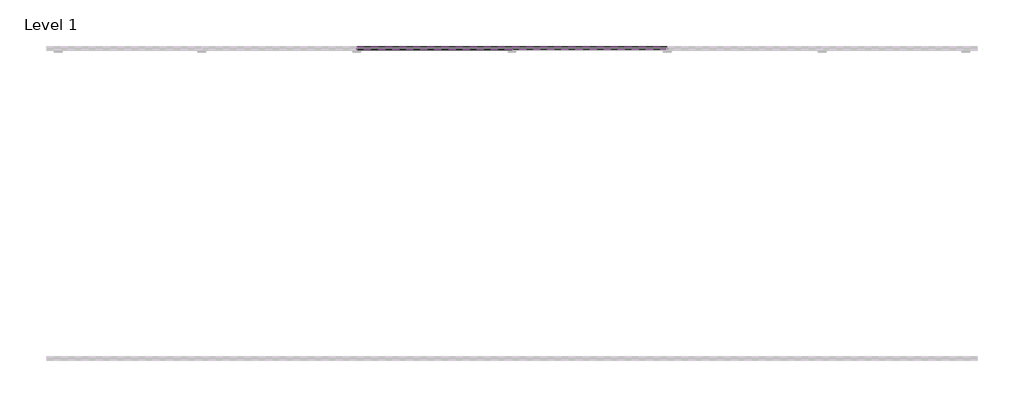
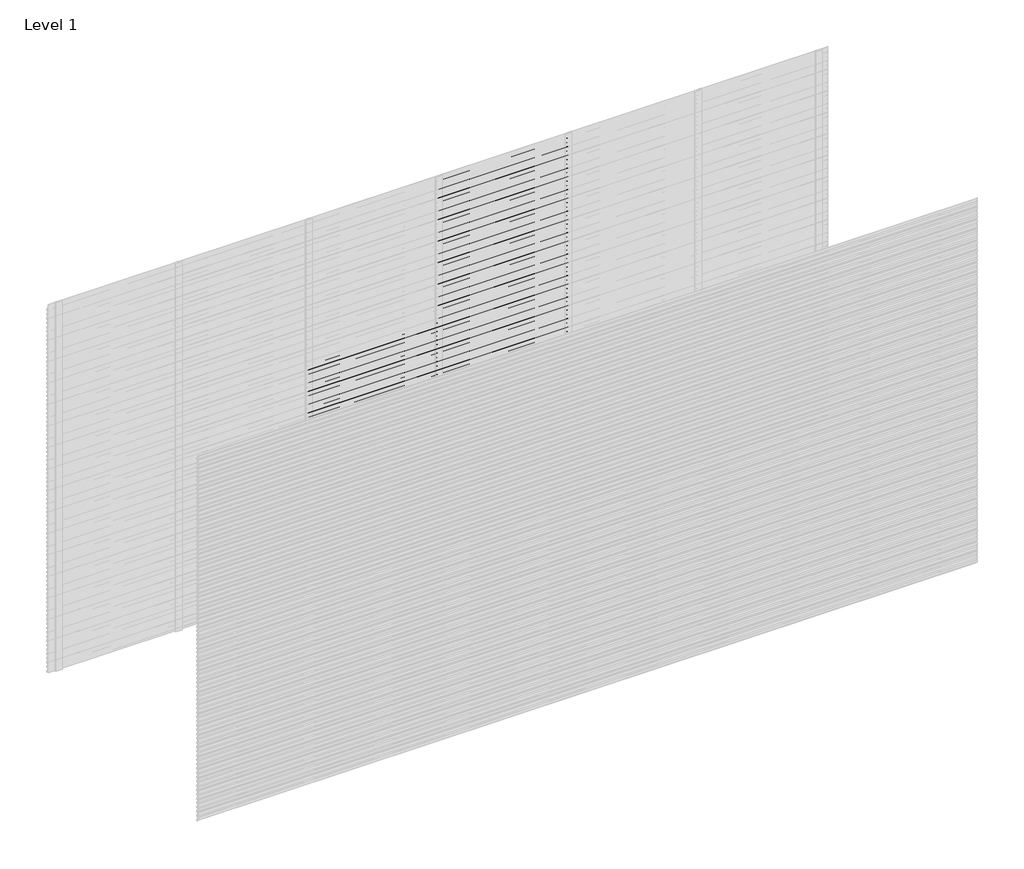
# One storey, part 23 of 25: 103 proxies.
"""IFC4 building model written with IfcOpenShell, lengths in millimetres."""

from ifc_helpers import new_model, si_unit, frame, origin, place, context, project, spatial, polyline, outline, extrude, element, save

model = new_model("IFC4")

# Units and contexts
model_context = context("Model", 3, world=origin())
ifc_project = project(units=[si_unit("LENGTHUNIT", "METRE", prefix="MILLI")], contexts=[model_context])

# Site, building, storey
site = spatial("IfcSite", under=ifc_project)
building = spatial("IfcBuilding", under=site)
storey = spatial("IfcBuildingStorey", under=building, Name="Level 1", Elevation=0.0)

# Proxies
placement = place(None, origin())
element("IfcBuildingElementProxy", 1, Name="Wall Sweeps", at=placement, inside=storey, context=model_context, shape_type="SweptSolid", body=[
    extrude(outline(polyline([(5.0, 1820.0), (5.0, 1808.942893), (24.0, 1793.0), (24.0, 1780.0), (3.0, 1797.6210923), (3.0, 1820.0), (5.0, 1820.0)])), frame((2000.0, 0.0, 0.0), z_axis=(1.0, 0.0, 0.0), x_axis=(0.0, 1.0, 0.0)), (0.0, 0.0, 1.0), 1000.0),
])
element("IfcBuildingElementProxy", 2, Name="Wall Sweeps", at=placement, inside=storey, context=model_context, shape_type="SweptSolid", body=[
    extrude(outline(polyline([(5.0, 1785.0), (5.0, 1773.942893), (24.0, 1758.0), (24.0, 1745.0), (3.0, 1762.6210923), (3.0, 1785.0), (5.0, 1785.0)])), frame((2000.0, 0.0, 0.0), z_axis=(1.0, 0.0, 0.0), x_axis=(0.0, 1.0, 0.0)), (0.0, 0.0, 1.0), 1000.0),
])
element("IfcBuildingElementProxy", 3, Name="Wall Sweeps", at=placement, inside=storey, context=model_context, shape_type="SweptSolid", body=[
    extrude(outline(polyline([(5.0, 1750.0), (5.0, 1738.942893), (24.0, 1723.0), (24.0, 1710.0), (3.0, 1727.6210923), (3.0, 1750.0), (5.0, 1750.0)])), frame((2000.0, 0.0, 0.0), z_axis=(1.0, 0.0, 0.0), x_axis=(0.0, 1.0, 0.0)), (0.0, 0.0, 1.0), 1000.0),
])
element("IfcBuildingElementProxy", 4, Name="Wall Sweeps", at=placement, inside=storey, context=model_context, shape_type="SweptSolid", body=[
    extrude(outline(polyline([(5.0, 1715.0), (5.0, 1703.942893), (24.0, 1688.0), (24.0, 1675.0), (3.0, 1692.6210923), (3.0, 1715.0), (5.0, 1715.0)])), frame((2000.0, 0.0, 0.0), z_axis=(1.0, 0.0, 0.0), x_axis=(0.0, 1.0, 0.0)), (0.0, 0.0, 1.0), 1000.0),
])
element("IfcBuildingElementProxy", 5, Name="Wall Sweeps", at=placement, inside=storey, context=model_context, shape_type="SweptSolid", body=[
    extrude(outline(polyline([(5.0, 1680.0), (5.0, 1668.942893), (24.0, 1653.0), (24.0, 1640.0), (3.0, 1657.6210923), (3.0, 1680.0), (5.0, 1680.0)])), frame((2000.0, 0.0, 0.0), z_axis=(1.0, 0.0, 0.0), x_axis=(0.0, 1.0, 0.0)), (0.0, 0.0, 1.0), 1000.0),
])
element("IfcBuildingElementProxy", 6, Name="Wall Sweeps", at=placement, inside=storey, context=model_context, shape_type="SweptSolid", body=[
    extrude(outline(polyline([(5.0, 1645.0), (5.0, 1633.942893), (24.0, 1618.0), (24.0, 1605.0), (3.0, 1622.6210923), (3.0, 1645.0), (5.0, 1645.0)])), frame((2000.0, 0.0, 0.0), z_axis=(1.0, 0.0, 0.0), x_axis=(0.0, 1.0, 0.0)), (0.0, 0.0, 1.0), 1000.0),
])
element("IfcBuildingElementProxy", 7, Name="Wall Sweeps", at=placement, inside=storey, context=model_context, shape_type="SweptSolid", body=[
    extrude(outline(polyline([(5.0, 1610.0), (5.0, 1598.942893), (24.0, 1583.0), (24.0, 1570.0), (3.0, 1587.6210923), (3.0, 1610.0), (5.0, 1610.0)])), frame((2000.0, 0.0, 0.0), z_axis=(1.0, 0.0, 0.0), x_axis=(0.0, 1.0, 0.0)), (0.0, 0.0, 1.0), 1000.0),
])
element("IfcBuildingElementProxy", 8, Name="Wall Sweeps", at=placement, inside=storey, context=model_context, shape_type="SweptSolid", body=[
    extrude(outline(polyline([(5.0, 1575.0), (5.0, 1563.942893), (24.0, 1548.0), (24.0, 1535.0), (3.0, 1552.6210923), (3.0, 1575.0), (5.0, 1575.0)])), frame((2000.0, 0.0, 0.0), z_axis=(1.0, 0.0, 0.0), x_axis=(0.0, 1.0, 0.0)), (0.0, 0.0, 1.0), 1000.0),
])
element("IfcBuildingElementProxy", 9, Name="Wall Sweeps", at=placement, inside=storey, context=model_context, shape_type="SweptSolid", body=[
    extrude(outline(polyline([(5.0, 1540.0), (5.0, 1528.942893), (24.0, 1513.0), (24.0, 1500.0), (3.0, 1517.6210923), (3.0, 1540.0), (5.0, 1540.0)])), frame((2000.0, 0.0, 0.0), z_axis=(1.0, 0.0, 0.0), x_axis=(0.0, 1.0, 0.0)), (0.0, 0.0, 1.0), 1000.0),
])
element("IfcBuildingElementProxy", 10, Name="Wall Sweeps", at=placement, inside=storey, context=model_context, shape_type="SweptSolid", body=[
    extrude(outline(polyline([(5.0, 1505.0), (5.0, 1493.942893), (24.0, 1478.0), (24.0, 1465.0), (3.0, 1482.6210923), (3.0, 1505.0), (5.0, 1505.0)])), frame((2000.0, 0.0, 0.0), z_axis=(1.0, 0.0, 0.0), x_axis=(0.0, 1.0, 0.0)), (0.0, 0.0, 1.0), 1000.0),
])
element("IfcBuildingElementProxy", 11, Name="Wall Sweeps", at=placement, inside=storey, context=model_context, shape_type="SweptSolid", body=[
    extrude(outline(polyline([(5.0, 1470.0), (5.0, 1458.942893), (24.0, 1443.0), (24.0, 1430.0), (3.0, 1447.6210923), (3.0, 1470.0), (5.0, 1470.0)])), frame((2000.0, 0.0, 0.0), z_axis=(1.0, 0.0, 0.0), x_axis=(0.0, 1.0, 0.0)), (0.0, 0.0, 1.0), 1000.0),
])
element("IfcBuildingElementProxy", 12, Name="Wall Sweeps", at=placement, inside=storey, context=model_context, shape_type="SweptSolid", body=[
    extrude(outline(polyline([(5.0, 1435.0), (5.0, 1423.942893), (24.0, 1408.0), (24.0, 1395.0), (3.0, 1412.6210923), (3.0, 1435.0), (5.0, 1435.0)])), frame((2000.0, 0.0, 0.0), z_axis=(1.0, 0.0, 0.0), x_axis=(0.0, 1.0, 0.0)), (0.0, 0.0, 1.0), 1000.0),
])
element("IfcBuildingElementProxy", 13, Name="Wall Sweeps", at=placement, inside=storey, context=model_context, shape_type="SweptSolid", body=[
    extrude(outline(polyline([(5.0, 1400.0), (5.0, 1388.942893), (24.0, 1373.0), (24.0, 1360.0), (3.0, 1377.6210923), (3.0, 1400.0), (5.0, 1400.0)])), frame((2000.0, 0.0, 0.0), z_axis=(1.0, 0.0, 0.0), x_axis=(0.0, 1.0, 0.0)), (0.0, 0.0, 1.0), 1000.0),
])
element("IfcBuildingElementProxy", 14, Name="Wall Sweeps", at=placement, inside=storey, context=model_context, shape_type="SweptSolid", body=[
    extrude(outline(polyline([(5.0, 1365.0), (5.0, 1353.942893), (24.0, 1338.0), (24.0, 1325.0), (3.0, 1342.6210923), (3.0, 1365.0), (5.0, 1365.0)])), frame((2000.0, 0.0, 0.0), z_axis=(1.0, 0.0, 0.0), x_axis=(0.0, 1.0, 0.0)), (0.0, 0.0, 1.0), 1000.0),
])
element("IfcBuildingElementProxy", 15, Name="Wall Sweeps", at=placement, inside=storey, context=model_context, shape_type="SweptSolid", body=[
    extrude(outline(polyline([(5.0, 1330.0), (5.0, 1318.942893), (24.0, 1303.0), (24.0, 1290.0), (3.0, 1307.6210923), (3.0, 1330.0), (5.0, 1330.0)])), frame((2000.0, 0.0, 0.0), z_axis=(1.0, 0.0, 0.0), x_axis=(0.0, 1.0, 0.0)), (0.0, 0.0, 1.0), 1000.0),
])
element("IfcBuildingElementProxy", 16, Name="Wall Sweeps", at=placement, inside=storey, context=model_context, shape_type="SweptSolid", body=[
    extrude(outline(polyline([(5.0, 1295.0), (5.0, 1283.942893), (24.0, 1268.0), (24.0, 1255.0), (3.0, 1272.6210923), (3.0, 1295.0), (5.0, 1295.0)])), frame((2000.0, 0.0, 0.0), z_axis=(1.0, 0.0, 0.0), x_axis=(0.0, 1.0, 0.0)), (0.0, 0.0, 1.0), 1000.0),
])
element("IfcBuildingElementProxy", 17, Name="Wall Sweeps", at=placement, inside=storey, context=model_context, shape_type="SweptSolid", body=[
    extrude(outline(polyline([(5.0, 1260.0), (5.0, 1248.942893), (24.0, 1233.0), (24.0, 1220.0), (3.0, 1237.6210923), (3.0, 1260.0), (5.0, 1260.0)])), frame((2000.0, 0.0, 0.0), z_axis=(1.0, 0.0, 0.0), x_axis=(0.0, 1.0, 0.0)), (0.0, 0.0, 1.0), 1000.0),
])
element("IfcBuildingElementProxy", 18, Name="Wall Sweeps", at=placement, inside=storey, context=model_context, shape_type="SweptSolid", body=[
    extrude(outline(polyline([(5.0, 1225.0), (5.0, 1213.942893), (24.0, 1198.0), (24.0, 1185.0), (3.0, 1202.6210923), (3.0, 1225.0), (5.0, 1225.0)])), frame((2000.0, 0.0, 0.0), z_axis=(1.0, 0.0, 0.0), x_axis=(0.0, 1.0, 0.0)), (0.0, 0.0, 1.0), 1000.0),
])
element("IfcBuildingElementProxy", 19, Name="Wall Sweeps", at=placement, inside=storey, context=model_context, shape_type="SweptSolid", body=[
    extrude(outline(polyline([(5.0, 1190.0), (5.0, 1178.942893), (24.0, 1163.0), (24.0, 1150.0), (3.0, 1167.6210923), (3.0, 1190.0), (5.0, 1190.0)])), frame((2000.0, 0.0, 0.0), z_axis=(1.0, 0.0, 0.0), x_axis=(0.0, 1.0, 0.0)), (0.0, 0.0, 1.0), 1000.0),
])
element("IfcBuildingElementProxy", 20, Name="Wall Sweeps", at=placement, inside=storey, context=model_context, shape_type="SweptSolid", body=[
    extrude(outline(polyline([(5.0, 1155.0), (5.0, 1143.942893), (24.0, 1128.0), (24.0, 1115.0), (3.0, 1132.6210923), (3.0, 1155.0), (5.0, 1155.0)])), frame((2000.0, 0.0, 0.0), z_axis=(1.0, 0.0, 0.0), x_axis=(0.0, 1.0, 0.0)), (0.0, 0.0, 1.0), 1000.0),
])
element("IfcBuildingElementProxy", 21, Name="Wall Sweeps", at=placement, inside=storey, context=model_context, shape_type="SweptSolid", body=[
    extrude(outline(polyline([(5.0, 1120.0), (5.0, 1108.942893), (24.0, 1093.0), (24.0, 1080.0), (3.0, 1097.6210923), (3.0, 1120.0), (5.0, 1120.0)])), frame((2000.0, 0.0, 0.0), z_axis=(1.0, 0.0, 0.0), x_axis=(0.0, 1.0, 0.0)), (0.0, 0.0, 1.0), 1000.0),
])
element("IfcBuildingElementProxy", 22, Name="Wall Sweeps", at=placement, inside=storey, context=model_context, shape_type="SweptSolid", body=[
    extrude(outline(polyline([(5.0, 1085.0), (5.0, 1073.942893), (24.0, 1058.0), (24.0, 1045.0), (3.0, 1062.6210923), (3.0, 1085.0), (5.0, 1085.0)])), frame((2000.0, 0.0, 0.0), z_axis=(1.0, 0.0, 0.0), x_axis=(0.0, 1.0, 0.0)), (0.0, 0.0, 1.0), 1000.0),
])
element("IfcBuildingElementProxy", 23, Name="Wall Sweeps", at=placement, inside=storey, context=model_context, shape_type="SweptSolid", body=[
    extrude(outline(polyline([(5.0, 1050.0), (5.0, 1038.942893), (24.0, 1023.0), (24.0, 1010.0), (3.0, 1027.6210923), (3.0, 1050.0), (5.0, 1050.0)])), frame((2000.0, 0.0, 0.0), z_axis=(1.0, 0.0, 0.0), x_axis=(0.0, 1.0, 0.0)), (0.0, 0.0, 1.0), 1000.0),
])
element("IfcBuildingElementProxy", 24, Name="Wall Sweeps", at=placement, inside=storey, context=model_context, shape_type="SweptSolid", body=[
    extrude(outline(polyline([(5.0, 1015.0), (5.0, 1003.942893), (24.0, 988.0), (24.0, 975.0), (3.0, 992.6210923), (3.0, 1015.0), (5.0, 1015.0)])), frame((2000.0, 0.0, 0.0), z_axis=(1.0, 0.0, 0.0), x_axis=(0.0, 1.0, 0.0)), (0.0, 0.0, 1.0), 1000.0),
])
element("IfcBuildingElementProxy", 25, Name="Wall Sweeps", at=placement, inside=storey, context=model_context, shape_type="SweptSolid", body=[
    extrude(outline(polyline([(5.0, 980.0), (5.0, 968.942893), (24.0, 953.0), (24.0, 940.0), (3.0, 957.6210923), (3.0, 980.0), (5.0, 980.0)])), frame((2000.0, 0.0, 0.0), z_axis=(1.0, 0.0, 0.0), x_axis=(0.0, 1.0, 0.0)), (0.0, 0.0, 1.0), 1000.0),
])
element("IfcBuildingElementProxy", 26, Name="Wall Sweeps", at=placement, inside=storey, context=model_context, shape_type="SweptSolid", body=[
    extrude(outline(polyline([(5.0, 945.0), (5.0, 933.942893), (24.0, 918.0), (24.0, 905.0), (3.0, 922.6210923), (3.0, 945.0), (5.0, 945.0)])), frame((2000.0, 0.0, 0.0), z_axis=(1.0, 0.0, 0.0), x_axis=(0.0, 1.0, 0.0)), (0.0, 0.0, 1.0), 1000.0),
])
element("IfcBuildingElementProxy", 27, Name="Wall Sweeps", at=placement, inside=storey, context=model_context, shape_type="SweptSolid", body=[
    extrude(outline(polyline([(5.0, 910.0), (5.0, 898.942893), (24.0, 883.0), (24.0, 870.0), (3.0, 887.6210923), (3.0, 910.0), (5.0, 910.0)])), frame((2000.0, 0.0, 0.0), z_axis=(1.0, 0.0, 0.0), x_axis=(0.0, 1.0, 0.0)), (0.0, 0.0, 1.0), 1000.0),
])
element("IfcBuildingElementProxy", 28, Name="Wall Sweeps", at=placement, inside=storey, context=model_context, shape_type="SweptSolid", body=[
    extrude(outline(polyline([(5.0, 875.0), (5.0, 863.942893), (24.0, 848.0), (24.0, 835.0), (3.0, 852.6210923), (3.0, 875.0), (5.0, 875.0)])), frame((2000.0, 0.0, 0.0), z_axis=(1.0, 0.0, 0.0), x_axis=(0.0, 1.0, 0.0)), (0.0, 0.0, 1.0), 1000.0),
])
element("IfcBuildingElementProxy", 29, Name="Wall Sweeps", at=placement, inside=storey, context=model_context, shape_type="SweptSolid", body=[
    extrude(outline(polyline([(5.0, 840.0), (5.0, 828.942893), (24.0, 813.0), (24.0, 800.0), (3.0, 817.6210923), (3.0, 840.0), (5.0, 840.0)])), frame((2000.0, 0.0, 0.0), z_axis=(1.0, 0.0, 0.0), x_axis=(0.0, 1.0, 0.0)), (0.0, 0.0, 1.0), 1000.0),
])
element("IfcBuildingElementProxy", 30, Name="Wall Sweeps", at=placement, inside=storey, context=model_context, shape_type="SweptSolid", body=[
    extrude(outline(polyline([(5.0, 805.0), (5.0, 793.942893), (24.0, 778.0), (24.0, 765.0), (3.0, 782.6210923), (3.0, 805.0), (5.0, 805.0)])), frame((2000.0, 0.0, 0.0), z_axis=(1.0, 0.0, 0.0), x_axis=(0.0, 1.0, 0.0)), (0.0, 0.0, 1.0), 1000.0),
])
element("IfcBuildingElementProxy", 31, Name="Wall Sweeps", at=placement, inside=storey, context=model_context, shape_type="SweptSolid", body=[
    extrude(outline(polyline([(5.0, 770.0), (5.0, 758.942893), (24.0, 743.0), (24.0, 730.0), (3.0, 747.6210923), (3.0, 770.0), (5.0, 770.0)])), frame((2000.0, 0.0, 0.0), z_axis=(1.0, 0.0, 0.0), x_axis=(0.0, 1.0, 0.0)), (0.0, 0.0, 1.0), 1000.0),
])
element("IfcBuildingElementProxy", 32, Name="Wall Sweeps", at=placement, inside=storey, context=model_context, shape_type="SweptSolid", body=[
    extrude(outline(polyline([(5.0, 735.0), (5.0, 723.942893), (24.0, 708.0), (24.0, 695.0), (3.0, 712.6210923), (3.0, 735.0), (5.0, 735.0)])), frame((2000.0, 0.0, 0.0), z_axis=(1.0, 0.0, 0.0), x_axis=(0.0, 1.0, 0.0)), (0.0, 0.0, 1.0), 1000.0),
])
element("IfcBuildingElementProxy", 33, Name="Wall Sweeps", at=placement, inside=storey, context=model_context, shape_type="SweptSolid", body=[
    extrude(outline(polyline([(5.0, 700.0), (5.0, 688.942893), (24.0, 673.0), (24.0, 660.0), (3.0, 677.6210923), (3.0, 700.0), (5.0, 700.0)])), frame((2000.0, 0.0, 0.0), z_axis=(1.0, 0.0, 0.0), x_axis=(0.0, 1.0, 0.0)), (0.0, 0.0, 1.0), 1000.0),
])
element("IfcBuildingElementProxy", 34, Name="Wall Sweeps", at=placement, inside=storey, context=model_context, shape_type="SweptSolid", body=[
    extrude(outline(polyline([(5.0, 665.0), (5.0, 653.942893), (24.0, 638.0), (24.0, 625.0), (3.0, 642.6210923), (3.0, 665.0), (5.0, 665.0)])), frame((2000.0, 0.0, 0.0), z_axis=(1.0, 0.0, 0.0), x_axis=(0.0, 1.0, 0.0)), (0.0, 0.0, 1.0), 1000.0),
])
element("IfcBuildingElementProxy", 35, Name="Wall Sweeps", at=placement, inside=storey, context=model_context, shape_type="SweptSolid", body=[
    extrude(outline(polyline([(5.0, 630.0), (5.0, 618.942893), (24.0, 603.0), (24.0, 590.0), (3.0, 607.6210923), (3.0, 630.0), (5.0, 630.0)])), frame((2000.0, 0.0, 0.0), z_axis=(1.0, 0.0, 0.0), x_axis=(0.0, 1.0, 0.0)), (0.0, 0.0, 1.0), 1000.0),
])
element("IfcBuildingElementProxy", 36, Name="Wall Sweeps", at=placement, inside=storey, context=model_context, shape_type="SweptSolid", body=[
    extrude(outline(polyline([(5.0, 595.0), (5.0, 583.942893), (24.0, 568.0), (24.0, 555.0), (3.0, 572.6210923), (3.0, 595.0), (5.0, 595.0)])), frame((2000.0, 0.0, 0.0), z_axis=(1.0, 0.0, 0.0), x_axis=(0.0, 1.0, 0.0)), (0.0, 0.0, 1.0), 1000.0),
])
element("IfcBuildingElementProxy", 37, Name="Wall Sweeps", at=placement, inside=storey, context=model_context, shape_type="SweptSolid", body=[
    extrude(outline(polyline([(5.0, 560.0), (5.0, 548.942893), (24.0, 533.0), (24.0, 520.0), (3.0, 537.6210923), (3.0, 560.0), (5.0, 560.0)])), frame((2000.0, 0.0, 0.0), z_axis=(1.0, 0.0, 0.0), x_axis=(0.0, 1.0, 0.0)), (0.0, 0.0, 1.0), 1000.0),
])
element("IfcBuildingElementProxy", 38, Name="Wall Sweeps", at=placement, inside=storey, context=model_context, shape_type="SweptSolid", body=[
    extrude(outline(polyline([(5.0, 525.0), (5.0, 513.942893), (24.0, 498.0), (24.0, 485.0), (3.0, 502.6210923), (3.0, 525.0), (5.0, 525.0)])), frame((2000.0, 0.0, 0.0), z_axis=(1.0, 0.0, 0.0), x_axis=(0.0, 1.0, 0.0)), (0.0, 0.0, 1.0), 1000.0),
])
element("IfcBuildingElementProxy", 39, Name="Wall Sweeps", at=placement, inside=storey, context=model_context, shape_type="SweptSolid", body=[
    extrude(outline(polyline([(5.0, 490.0), (5.0, 478.942893), (24.0, 463.0), (24.0, 450.0), (3.0, 467.6210923), (3.0, 490.0), (5.0, 490.0)])), frame((2000.0, 0.0, 0.0), z_axis=(1.0, 0.0, 0.0), x_axis=(0.0, 1.0, 0.0)), (0.0, 0.0, 1.0), 1000.0),
])
element("IfcBuildingElementProxy", 40, Name="Wall Sweeps", at=placement, inside=storey, context=model_context, shape_type="SweptSolid", body=[
    extrude(outline(polyline([(5.0, 455.0), (5.0, 443.942893), (24.0, 428.0), (24.0, 415.0), (3.0, 432.6210923), (3.0, 455.0), (5.0, 455.0)])), frame((2000.0, 0.0, 0.0), z_axis=(1.0, 0.0, 0.0), x_axis=(0.0, 1.0, 0.0)), (0.0, 0.0, 1.0), 1000.0),
])
element("IfcBuildingElementProxy", 41, Name="Wall Sweeps", at=placement, inside=storey, context=model_context, shape_type="SweptSolid", body=[
    extrude(outline(polyline([(5.0, 420.0), (5.0, 408.942893), (24.0, 393.0), (24.0, 380.0), (3.0, 397.6210923), (3.0, 420.0), (5.0, 420.0)])), frame((2000.0, 0.0, 0.0), z_axis=(1.0, 0.0, 0.0), x_axis=(0.0, 1.0, 0.0)), (0.0, 0.0, 1.0), 1000.0),
])
element("IfcBuildingElementProxy", 42, Name="Wall Sweeps", at=placement, inside=storey, context=model_context, shape_type="SweptSolid", body=[
    extrude(outline(polyline([(5.0, 385.0), (5.0, 373.942893), (24.0, 358.0), (24.0, 345.0), (3.0, 362.6210923), (3.0, 385.0), (5.0, 385.0)])), frame((2000.0, 0.0, 0.0), z_axis=(1.0, 0.0, 0.0), x_axis=(0.0, 1.0, 0.0)), (0.0, 0.0, 1.0), 1000.0),
])
element("IfcBuildingElementProxy", 43, Name="Wall Sweeps", at=placement, inside=storey, context=model_context, shape_type="SweptSolid", body=[
    extrude(outline(polyline([(5.0, 350.0), (5.0, 338.942893), (24.0, 323.0), (24.0, 310.0), (3.0, 327.6210923), (3.0, 350.0), (5.0, 350.0)])), frame((2000.0, 0.0, 0.0), z_axis=(1.0, 0.0, 0.0), x_axis=(0.0, 1.0, 0.0)), (0.0, 0.0, 1.0), 1000.0),
])
element("IfcBuildingElementProxy", 44, Name="Wall Sweeps", at=placement, inside=storey, context=model_context, shape_type="SweptSolid", body=[
    extrude(outline(polyline([(5.0, 315.0), (5.0, 303.942893), (24.0, 288.0), (24.0, 275.0), (3.0, 292.6210923), (3.0, 315.0), (5.0, 315.0)])), frame((2000.0, 0.0, 0.0), z_axis=(1.0, 0.0, 0.0), x_axis=(0.0, 1.0, 0.0)), (0.0, 0.0, 1.0), 1000.0),
])
element("IfcBuildingElementProxy", 45, Name="Wall Sweeps", at=placement, inside=storey, context=model_context, shape_type="SweptSolid", body=[
    extrude(outline(polyline([(5.0, 280.0), (5.0, 268.942893), (24.0, 253.0), (24.0, 240.0), (3.0, 257.6210923), (3.0, 280.0), (5.0, 280.0)])), frame((2000.0, 0.0, 0.0), z_axis=(1.0, 0.0, 0.0), x_axis=(0.0, 1.0, 0.0)), (0.0, 0.0, 1.0), 1000.0),
])
element("IfcBuildingElementProxy", 46, Name="Wall Sweeps", at=placement, inside=storey, context=model_context, shape_type="SweptSolid", body=[
    extrude(outline(polyline([(5.0, 245.0), (5.0, 233.942893), (24.0, 218.0), (24.0, 205.0), (3.0, 222.6210923), (3.0, 245.0), (5.0, 245.0)])), frame((2000.0, 0.0, 0.0), z_axis=(1.0, 0.0, 0.0), x_axis=(0.0, 1.0, 0.0)), (0.0, 0.0, 1.0), 1000.0),
])
element("IfcBuildingElementProxy", 47, Name="Wall Sweeps", at=placement, inside=storey, context=model_context, shape_type="SweptSolid", body=[
    extrude(outline(polyline([(5.0, 210.0), (5.0, 198.942893), (24.0, 183.0), (24.0, 170.0), (3.0, 187.6210923), (3.0, 210.0), (5.0, 210.0)])), frame((2000.0, 0.0, 0.0), z_axis=(1.0, 0.0, 0.0), x_axis=(0.0, 1.0, 0.0)), (0.0, 0.0, 1.0), 1000.0),
])
element("IfcBuildingElementProxy", 48, Name="Wall Sweeps", at=placement, inside=storey, context=model_context, shape_type="SweptSolid", body=[
    extrude(outline(polyline([(5.0, 175.0), (5.0, 163.942893), (24.0, 148.0), (24.0, 135.0), (3.0, 152.6210923), (3.0, 175.0), (5.0, 175.0)])), frame((2000.0, 0.0, 0.0), z_axis=(1.0, 0.0, 0.0), x_axis=(0.0, 1.0, 0.0)), (0.0, 0.0, 1.0), 1000.0),
])
element("IfcBuildingElementProxy", 49, Name="Wall Sweeps", at=placement, inside=storey, context=model_context, shape_type="SweptSolid", body=[
    extrude(outline(polyline([(5.0, 140.0), (5.0, 128.942893), (24.0, 113.0), (24.0, 100.0), (3.0, 117.6210923), (3.0, 140.0), (5.0, 140.0)])), frame((2000.0, 0.0, 0.0), z_axis=(1.0, 0.0, 0.0), x_axis=(0.0, 1.0, 0.0)), (0.0, 0.0, 1.0), 1000.0),
])
element("IfcBuildingElementProxy", 50, Name="Wall Sweeps", at=placement, inside=storey, context=model_context, shape_type="SweptSolid", body=[
    extrude(outline(polyline([(5.0, 105.0), (5.0, 93.942893), (24.0, 78.0), (24.0, 65.0), (3.0, 82.6210923), (3.0, 105.0), (5.0, 105.0)])), frame((2000.0, 0.0, 0.0), z_axis=(1.0, 0.0, 0.0), x_axis=(0.0, 1.0, 0.0)), (0.0, 0.0, 1.0), 1000.0),
])
element("IfcBuildingElementProxy", 51, Name="Wall Sweeps", at=placement, inside=storey, context=model_context, shape_type="SweptSolid", body=[
    extrude(outline(polyline([(5.0, 70.0), (5.0, 58.942893), (24.0, 43.0), (24.0, 30.0), (3.0, 47.6210923), (3.0, 70.0), (5.0, 70.0)])), frame((2000.0, 0.0, 0.0), z_axis=(1.0, 0.0, 0.0), x_axis=(0.0, 1.0, 0.0)), (0.0, 0.0, 1.0), 1000.0),
])
element("IfcBuildingElementProxy", 52, Name="Wall Sweeps", at=placement, inside=storey, context=model_context, shape_type="SweptSolid", body=[
    extrude(outline(polyline([(5.0, 35.0), (5.0, 23.942893), (24.0, 8.0), (24.0, -5.0), (3.0, 12.6210923), (3.0, 35.0), (5.0, 35.0)])), frame((2000.0, 0.0, 0.0), z_axis=(1.0, 0.0, 0.0), x_axis=(0.0, 1.0, 0.0)), (0.0, 0.0, 1.0), 1000.0),
])
element("IfcBuildingElementProxy", 53, Name="Wall Sweeps", at=placement, inside=storey, context=model_context, shape_type="SweptSolid", body=[
    extrude(outline(polyline([(5.0, 2975.0), (5.0, 2963.942893), (24.0, 2948.0), (24.0, 2935.0), (3.0, 2952.6210923), (3.0, 2975.0), (5.0, 2975.0)])), frame((3000.0, 0.0, 0.0), z_axis=(1.0, 0.0, 0.0), x_axis=(0.0, 1.0, 0.0)), (0.0, 0.0, 1.0), 1000.0),
])
element("IfcBuildingElementProxy", 54, Name="Wall Sweeps", at=placement, inside=storey, context=model_context, shape_type="SweptSolid", body=[
    extrude(outline(polyline([(5.0, 2940.0), (5.0, 2928.942893), (24.0, 2913.0), (24.0, 2900.0), (3.0, 2917.6210923), (3.0, 2940.0), (5.0, 2940.0)])), frame((3000.0, 0.0, 0.0), z_axis=(1.0, 0.0, 0.0), x_axis=(0.0, 1.0, 0.0)), (0.0, 0.0, 1.0), 1000.0),
])
element("IfcBuildingElementProxy", 55, Name="Wall Sweeps", at=placement, inside=storey, context=model_context, shape_type="SweptSolid", body=[
    extrude(outline(polyline([(5.0, 2905.0), (5.0, 2893.942893), (24.0, 2878.0), (24.0, 2865.0), (3.0, 2882.6210923), (3.0, 2905.0), (5.0, 2905.0)])), frame((3000.0, 0.0, 0.0), z_axis=(1.0, 0.0, 0.0), x_axis=(0.0, 1.0, 0.0)), (0.0, 0.0, 1.0), 1000.0),
])
element("IfcBuildingElementProxy", 56, Name="Wall Sweeps", at=placement, inside=storey, context=model_context, shape_type="SweptSolid", body=[
    extrude(outline(polyline([(5.0, 2870.0), (5.0, 2858.942893), (24.0, 2843.0), (24.0, 2830.0), (3.0, 2847.6210923), (3.0, 2870.0), (5.0, 2870.0)])), frame((3000.0, 0.0, 0.0), z_axis=(1.0, 0.0, 0.0), x_axis=(0.0, 1.0, 0.0)), (0.0, 0.0, 1.0), 1000.0),
])
element("IfcBuildingElementProxy", 57, Name="Wall Sweeps", at=placement, inside=storey, context=model_context, shape_type="SweptSolid", body=[
    extrude(outline(polyline([(5.0, 2835.0), (5.0, 2823.942893), (24.0, 2808.0), (24.0, 2795.0), (3.0, 2812.6210923), (3.0, 2835.0), (5.0, 2835.0)])), frame((3000.0, 0.0, 0.0), z_axis=(1.0, 0.0, 0.0), x_axis=(0.0, 1.0, 0.0)), (0.0, 0.0, 1.0), 1000.0),
])
element("IfcBuildingElementProxy", 58, Name="Wall Sweeps", at=placement, inside=storey, context=model_context, shape_type="SweptSolid", body=[
    extrude(outline(polyline([(5.0, 2800.0), (5.0, 2788.942893), (24.0, 2773.0), (24.0, 2760.0), (3.0, 2777.6210923), (3.0, 2800.0), (5.0, 2800.0)])), frame((3000.0, 0.0, 0.0), z_axis=(1.0, 0.0, 0.0), x_axis=(0.0, 1.0, 0.0)), (0.0, 0.0, 1.0), 1000.0),
])
element("IfcBuildingElementProxy", 59, Name="Wall Sweeps", at=placement, inside=storey, context=model_context, shape_type="SweptSolid", body=[
    extrude(outline(polyline([(5.0, 2765.0), (5.0, 2753.942893), (24.0, 2738.0), (24.0, 2725.0), (3.0, 2742.6210923), (3.0, 2765.0), (5.0, 2765.0)])), frame((3000.0, 0.0, 0.0), z_axis=(1.0, 0.0, 0.0), x_axis=(0.0, 1.0, 0.0)), (0.0, 0.0, 1.0), 1000.0),
])
element("IfcBuildingElementProxy", 60, Name="Wall Sweeps", at=placement, inside=storey, context=model_context, shape_type="SweptSolid", body=[
    extrude(outline(polyline([(5.0, 2730.0), (5.0, 2718.942893), (24.0, 2703.0), (24.0, 2690.0), (3.0, 2707.6210923), (3.0, 2730.0), (5.0, 2730.0)])), frame((3000.0, 0.0, 0.0), z_axis=(1.0, 0.0, 0.0), x_axis=(0.0, 1.0, 0.0)), (0.0, 0.0, 1.0), 1000.0),
])
element("IfcBuildingElementProxy", 61, Name="Wall Sweeps", at=placement, inside=storey, context=model_context, shape_type="SweptSolid", body=[
    extrude(outline(polyline([(5.0, 2695.0), (5.0, 2683.942893), (24.0, 2668.0), (24.0, 2655.0), (3.0, 2672.6210923), (3.0, 2695.0), (5.0, 2695.0)])), frame((3000.0, 0.0, 0.0), z_axis=(1.0, 0.0, 0.0), x_axis=(0.0, 1.0, 0.0)), (0.0, 0.0, 1.0), 1000.0),
])
element("IfcBuildingElementProxy", 62, Name="Wall Sweeps", at=placement, inside=storey, context=model_context, shape_type="SweptSolid", body=[
    extrude(outline(polyline([(5.0, 2660.0), (5.0, 2648.942893), (24.0, 2633.0), (24.0, 2620.0), (3.0, 2637.6210923), (3.0, 2660.0), (5.0, 2660.0)])), frame((3000.0, 0.0, 0.0), z_axis=(1.0, 0.0, 0.0), x_axis=(0.0, 1.0, 0.0)), (0.0, 0.0, 1.0), 1000.0),
])
element("IfcBuildingElementProxy", 63, Name="Wall Sweeps", at=placement, inside=storey, context=model_context, shape_type="SweptSolid", body=[
    extrude(outline(polyline([(5.0, 2625.0), (5.0, 2613.942893), (24.0, 2598.0), (24.0, 2585.0), (3.0, 2602.6210923), (3.0, 2625.0), (5.0, 2625.0)])), frame((3000.0, 0.0, 0.0), z_axis=(1.0, 0.0, 0.0), x_axis=(0.0, 1.0, 0.0)), (0.0, 0.0, 1.0), 1000.0),
])
element("IfcBuildingElementProxy", 64, Name="Wall Sweeps", at=placement, inside=storey, context=model_context, shape_type="SweptSolid", body=[
    extrude(outline(polyline([(5.0, 2590.0), (5.0, 2578.942893), (24.0, 2563.0), (24.0, 2550.0), (3.0, 2567.6210923), (3.0, 2590.0), (5.0, 2590.0)])), frame((3000.0, 0.0, 0.0), z_axis=(1.0, 0.0, 0.0), x_axis=(0.0, 1.0, 0.0)), (0.0, 0.0, 1.0), 1000.0),
])
element("IfcBuildingElementProxy", 65, Name="Wall Sweeps", at=placement, inside=storey, context=model_context, shape_type="SweptSolid", body=[
    extrude(outline(polyline([(5.0, 2555.0), (5.0, 2543.942893), (24.0, 2528.0), (24.0, 2515.0), (3.0, 2532.6210923), (3.0, 2555.0), (5.0, 2555.0)])), frame((3000.0, 0.0, 0.0), z_axis=(1.0, 0.0, 0.0), x_axis=(0.0, 1.0, 0.0)), (0.0, 0.0, 1.0), 1000.0),
])
element("IfcBuildingElementProxy", 66, Name="Wall Sweeps", at=placement, inside=storey, context=model_context, shape_type="SweptSolid", body=[
    extrude(outline(polyline([(5.0, 2520.0), (5.0, 2508.942893), (24.0, 2493.0), (24.0, 2480.0), (3.0, 2497.6210923), (3.0, 2520.0), (5.0, 2520.0)])), frame((3000.0, 0.0, 0.0), z_axis=(1.0, 0.0, 0.0), x_axis=(0.0, 1.0, 0.0)), (0.0, 0.0, 1.0), 1000.0),
])
element("IfcBuildingElementProxy", 67, Name="Wall Sweeps", at=placement, inside=storey, context=model_context, shape_type="SweptSolid", body=[
    extrude(outline(polyline([(5.0, 2485.0), (5.0, 2473.942893), (24.0, 2458.0), (24.0, 2445.0), (3.0, 2462.6210923), (3.0, 2485.0), (5.0, 2485.0)])), frame((3000.0, 0.0, 0.0), z_axis=(1.0, 0.0, 0.0), x_axis=(0.0, 1.0, 0.0)), (0.0, 0.0, 1.0), 1000.0),
])
element("IfcBuildingElementProxy", 68, Name="Wall Sweeps", at=placement, inside=storey, context=model_context, shape_type="SweptSolid", body=[
    extrude(outline(polyline([(5.0, 2450.0), (5.0, 2438.942893), (24.0, 2423.0), (24.0, 2410.0), (3.0, 2427.6210923), (3.0, 2450.0), (5.0, 2450.0)])), frame((3000.0, 0.0, 0.0), z_axis=(1.0, 0.0, 0.0), x_axis=(0.0, 1.0, 0.0)), (0.0, 0.0, 1.0), 1000.0),
])
element("IfcBuildingElementProxy", 69, Name="Wall Sweeps", at=placement, inside=storey, context=model_context, shape_type="SweptSolid", body=[
    extrude(outline(polyline([(5.0, 2415.0), (5.0, 2403.942893), (24.0, 2388.0), (24.0, 2375.0), (3.0, 2392.6210923), (3.0, 2415.0), (5.0, 2415.0)])), frame((3000.0, 0.0, 0.0), z_axis=(1.0, 0.0, 0.0), x_axis=(0.0, 1.0, 0.0)), (0.0, 0.0, 1.0), 1000.0),
])
element("IfcBuildingElementProxy", 70, Name="Wall Sweeps", at=placement, inside=storey, context=model_context, shape_type="SweptSolid", body=[
    extrude(outline(polyline([(5.0, 2380.0), (5.0, 2368.942893), (24.0, 2353.0), (24.0, 2340.0), (3.0, 2357.6210923), (3.0, 2380.0), (5.0, 2380.0)])), frame((3000.0, 0.0, 0.0), z_axis=(1.0, 0.0, 0.0), x_axis=(0.0, 1.0, 0.0)), (0.0, 0.0, 1.0), 1000.0),
])
element("IfcBuildingElementProxy", 71, Name="Wall Sweeps", at=placement, inside=storey, context=model_context, shape_type="SweptSolid", body=[
    extrude(outline(polyline([(5.0, 2345.0), (5.0, 2333.942893), (24.0, 2318.0), (24.0, 2305.0), (3.0, 2322.6210923), (3.0, 2345.0), (5.0, 2345.0)])), frame((3000.0, 0.0, 0.0), z_axis=(1.0, 0.0, 0.0), x_axis=(0.0, 1.0, 0.0)), (0.0, 0.0, 1.0), 1000.0),
])
element("IfcBuildingElementProxy", 72, Name="Wall Sweeps", at=placement, inside=storey, context=model_context, shape_type="SweptSolid", body=[
    extrude(outline(polyline([(5.0, 2310.0), (5.0, 2298.942893), (24.0, 2283.0), (24.0, 2270.0), (3.0, 2287.6210923), (3.0, 2310.0), (5.0, 2310.0)])), frame((3000.0, 0.0, 0.0), z_axis=(1.0, 0.0, 0.0), x_axis=(0.0, 1.0, 0.0)), (0.0, 0.0, 1.0), 1000.0),
])
element("IfcBuildingElementProxy", 73, Name="Wall Sweeps", at=placement, inside=storey, context=model_context, shape_type="SweptSolid", body=[
    extrude(outline(polyline([(5.0, 2275.0), (5.0, 2263.942893), (24.0, 2248.0), (24.0, 2235.0), (3.0, 2252.6210923), (3.0, 2275.0), (5.0, 2275.0)])), frame((3000.0, 0.0, 0.0), z_axis=(1.0, 0.0, 0.0), x_axis=(0.0, 1.0, 0.0)), (0.0, 0.0, 1.0), 1000.0),
])
element("IfcBuildingElementProxy", 74, Name="Wall Sweeps", at=placement, inside=storey, context=model_context, shape_type="SweptSolid", body=[
    extrude(outline(polyline([(5.0, 2240.0), (5.0, 2228.942893), (24.0, 2213.0), (24.0, 2200.0), (3.0, 2217.6210923), (3.0, 2240.0), (5.0, 2240.0)])), frame((3000.0, 0.0, 0.0), z_axis=(1.0, 0.0, 0.0), x_axis=(0.0, 1.0, 0.0)), (0.0, 0.0, 1.0), 1000.0),
])
element("IfcBuildingElementProxy", 75, Name="Wall Sweeps", at=placement, inside=storey, context=model_context, shape_type="SweptSolid", body=[
    extrude(outline(polyline([(5.0, 2205.0), (5.0, 2193.942893), (24.0, 2178.0), (24.0, 2165.0), (3.0, 2182.6210923), (3.0, 2205.0), (5.0, 2205.0)])), frame((3000.0, 0.0, 0.0), z_axis=(1.0, 0.0, 0.0), x_axis=(0.0, 1.0, 0.0)), (0.0, 0.0, 1.0), 1000.0),
])
element("IfcBuildingElementProxy", 76, Name="Wall Sweeps", at=placement, inside=storey, context=model_context, shape_type="SweptSolid", body=[
    extrude(outline(polyline([(5.0, 2170.0), (5.0, 2158.942893), (24.0, 2143.0), (24.0, 2130.0), (3.0, 2147.6210923), (3.0, 2170.0), (5.0, 2170.0)])), frame((3000.0, 0.0, 0.0), z_axis=(1.0, 0.0, 0.0), x_axis=(0.0, 1.0, 0.0)), (0.0, 0.0, 1.0), 1000.0),
])
element("IfcBuildingElementProxy", 77, Name="Wall Sweeps", at=placement, inside=storey, context=model_context, shape_type="SweptSolid", body=[
    extrude(outline(polyline([(5.0, 2135.0), (5.0, 2123.942893), (24.0, 2108.0), (24.0, 2095.0), (3.0, 2112.6210923), (3.0, 2135.0), (5.0, 2135.0)])), frame((3000.0, 0.0, 0.0), z_axis=(1.0, 0.0, 0.0), x_axis=(0.0, 1.0, 0.0)), (0.0, 0.0, 1.0), 1000.0),
])
element("IfcBuildingElementProxy", 78, Name="Wall Sweeps", at=placement, inside=storey, context=model_context, shape_type="SweptSolid", body=[
    extrude(outline(polyline([(5.0, 2100.0), (5.0, 2088.942893), (24.0, 2073.0), (24.0, 2060.0), (3.0, 2077.6210923), (3.0, 2100.0), (5.0, 2100.0)])), frame((3000.0, 0.0, 0.0), z_axis=(1.0, 0.0, 0.0), x_axis=(0.0, 1.0, 0.0)), (0.0, 0.0, 1.0), 1000.0),
])
element("IfcBuildingElementProxy", 79, Name="Wall Sweeps", at=placement, inside=storey, context=model_context, shape_type="SweptSolid", body=[
    extrude(outline(polyline([(5.0, 2065.0), (5.0, 2053.942893), (24.0, 2038.0), (24.0, 2025.0), (3.0, 2042.6210923), (3.0, 2065.0), (5.0, 2065.0)])), frame((3000.0, 0.0, 0.0), z_axis=(1.0, 0.0, 0.0), x_axis=(0.0, 1.0, 0.0)), (0.0, 0.0, 1.0), 1000.0),
])
element("IfcBuildingElementProxy", 80, Name="Wall Sweeps", at=placement, inside=storey, context=model_context, shape_type="SweptSolid", body=[
    extrude(outline(polyline([(5.0, 2030.0), (5.0, 2018.942893), (24.0, 2003.0), (24.0, 1990.0), (3.0, 2007.6210923), (3.0, 2030.0), (5.0, 2030.0)])), frame((3000.0, 0.0, 0.0), z_axis=(1.0, 0.0, 0.0), x_axis=(0.0, 1.0, 0.0)), (0.0, 0.0, 1.0), 1000.0),
])
element("IfcBuildingElementProxy", 81, Name="Wall Sweeps", at=placement, inside=storey, context=model_context, shape_type="SweptSolid", body=[
    extrude(outline(polyline([(5.0, 1995.0), (5.0, 1983.942893), (24.0, 1968.0), (24.0, 1955.0), (3.0, 1972.6210923), (3.0, 1995.0), (5.0, 1995.0)])), frame((3000.0, 0.0, 0.0), z_axis=(1.0, 0.0, 0.0), x_axis=(0.0, 1.0, 0.0)), (0.0, 0.0, 1.0), 1000.0),
])
element("IfcBuildingElementProxy", 82, Name="Wall Sweeps", at=placement, inside=storey, context=model_context, shape_type="SweptSolid", body=[
    extrude(outline(polyline([(5.0, 1960.0), (5.0, 1948.942893), (24.0, 1933.0), (24.0, 1920.0), (3.0, 1937.6210923), (3.0, 1960.0), (5.0, 1960.0)])), frame((3000.0, 0.0, 0.0), z_axis=(1.0, 0.0, 0.0), x_axis=(0.0, 1.0, 0.0)), (0.0, 0.0, 1.0), 1000.0),
])
element("IfcBuildingElementProxy", 83, Name="Wall Sweeps", at=placement, inside=storey, context=model_context, shape_type="SweptSolid", body=[
    extrude(outline(polyline([(5.0, 1925.0), (5.0, 1913.942893), (24.0, 1898.0), (24.0, 1885.0), (3.0, 1902.6210923), (3.0, 1925.0), (5.0, 1925.0)])), frame((3000.0, 0.0, 0.0), z_axis=(1.0, 0.0, 0.0), x_axis=(0.0, 1.0, 0.0)), (0.0, 0.0, 1.0), 1000.0),
])
element("IfcBuildingElementProxy", 84, Name="Wall Sweeps", at=placement, inside=storey, context=model_context, shape_type="SweptSolid", body=[
    extrude(outline(polyline([(5.0, 1890.0), (5.0, 1878.942893), (24.0, 1863.0), (24.0, 1850.0), (3.0, 1867.6210923), (3.0, 1890.0), (5.0, 1890.0)])), frame((3000.0, 0.0, 0.0), z_axis=(1.0, 0.0, 0.0), x_axis=(0.0, 1.0, 0.0)), (0.0, 0.0, 1.0), 1000.0),
])
element("IfcBuildingElementProxy", 85, Name="Wall Sweeps", at=placement, inside=storey, context=model_context, shape_type="SweptSolid", body=[
    extrude(outline(polyline([(5.0, 1855.0), (5.0, 1843.942893), (24.0, 1828.0), (24.0, 1815.0), (3.0, 1832.6210923), (3.0, 1855.0), (5.0, 1855.0)])), frame((3000.0, 0.0, 0.0), z_axis=(1.0, 0.0, 0.0), x_axis=(0.0, 1.0, 0.0)), (0.0, 0.0, 1.0), 1000.0),
])
element("IfcBuildingElementProxy", 86, Name="Wall Sweeps", at=placement, inside=storey, context=model_context, shape_type="SweptSolid", body=[
    extrude(outline(polyline([(5.0, 1820.0), (5.0, 1808.942893), (24.0, 1793.0), (24.0, 1780.0), (3.0, 1797.6210923), (3.0, 1820.0), (5.0, 1820.0)])), frame((3000.0, 0.0, 0.0), z_axis=(1.0, 0.0, 0.0), x_axis=(0.0, 1.0, 0.0)), (0.0, 0.0, 1.0), 1000.0),
])
element("IfcBuildingElementProxy", 87, Name="Wall Sweeps", at=placement, inside=storey, context=model_context, shape_type="SweptSolid", body=[
    extrude(outline(polyline([(5.0, 1785.0), (5.0, 1773.942893), (24.0, 1758.0), (24.0, 1745.0), (3.0, 1762.6210923), (3.0, 1785.0), (5.0, 1785.0)])), frame((3000.0, 0.0, 0.0), z_axis=(1.0, 0.0, 0.0), x_axis=(0.0, 1.0, 0.0)), (0.0, 0.0, 1.0), 1000.0),
])
element("IfcBuildingElementProxy", 88, Name="Wall Sweeps", at=placement, inside=storey, context=model_context, shape_type="SweptSolid", body=[
    extrude(outline(polyline([(5.0, 1750.0), (5.0, 1738.942893), (24.0, 1723.0), (24.0, 1710.0), (3.0, 1727.6210923), (3.0, 1750.0), (5.0, 1750.0)])), frame((3000.0, 0.0, 0.0), z_axis=(1.0, 0.0, 0.0), x_axis=(0.0, 1.0, 0.0)), (0.0, 0.0, 1.0), 1000.0),
])
element("IfcBuildingElementProxy", 89, Name="Wall Sweeps", at=placement, inside=storey, context=model_context, shape_type="SweptSolid", body=[
    extrude(outline(polyline([(5.0, 1715.0), (5.0, 1703.942893), (24.0, 1688.0), (24.0, 1675.0), (3.0, 1692.6210923), (3.0, 1715.0), (5.0, 1715.0)])), frame((3000.0, 0.0, 0.0), z_axis=(1.0, 0.0, 0.0), x_axis=(0.0, 1.0, 0.0)), (0.0, 0.0, 1.0), 1000.0),
])
element("IfcBuildingElementProxy", 90, Name="Wall Sweeps", at=placement, inside=storey, context=model_context, shape_type="SweptSolid", body=[
    extrude(outline(polyline([(5.0, 1680.0), (5.0, 1668.942893), (24.0, 1653.0), (24.0, 1640.0), (3.0, 1657.6210923), (3.0, 1680.0), (5.0, 1680.0)])), frame((3000.0, 0.0, 0.0), z_axis=(1.0, 0.0, 0.0), x_axis=(0.0, 1.0, 0.0)), (0.0, 0.0, 1.0), 1000.0),
])
element("IfcBuildingElementProxy", 91, Name="Wall Sweeps", at=placement, inside=storey, context=model_context, shape_type="SweptSolid", body=[
    extrude(outline(polyline([(5.0, 1645.0), (5.0, 1633.942893), (24.0, 1618.0), (24.0, 1605.0), (3.0, 1622.6210923), (3.0, 1645.0), (5.0, 1645.0)])), frame((3000.0, 0.0, 0.0), z_axis=(1.0, 0.0, 0.0), x_axis=(0.0, 1.0, 0.0)), (0.0, 0.0, 1.0), 1000.0),
])
element("IfcBuildingElementProxy", 92, Name="Wall Sweeps", at=placement, inside=storey, context=model_context, shape_type="SweptSolid", body=[
    extrude(outline(polyline([(5.0, 1610.0), (5.0, 1598.942893), (24.0, 1583.0), (24.0, 1570.0), (3.0, 1587.6210923), (3.0, 1610.0), (5.0, 1610.0)])), frame((3000.0, 0.0, 0.0), z_axis=(1.0, 0.0, 0.0), x_axis=(0.0, 1.0, 0.0)), (0.0, 0.0, 1.0), 1000.0),
])
element("IfcBuildingElementProxy", 93, Name="Wall Sweeps", at=placement, inside=storey, context=model_context, shape_type="SweptSolid", body=[
    extrude(outline(polyline([(5.0, 1575.0), (5.0, 1563.942893), (24.0, 1548.0), (24.0, 1535.0), (3.0, 1552.6210923), (3.0, 1575.0), (5.0, 1575.0)])), frame((3000.0, 0.0, 0.0), z_axis=(1.0, 0.0, 0.0), x_axis=(0.0, 1.0, 0.0)), (0.0, 0.0, 1.0), 1000.0),
])
element("IfcBuildingElementProxy", 94, Name="Wall Sweeps", at=placement, inside=storey, context=model_context, shape_type="SweptSolid", body=[
    extrude(outline(polyline([(5.0, 1540.0), (5.0, 1528.942893), (24.0, 1513.0), (24.0, 1500.0), (3.0, 1517.6210923), (3.0, 1540.0), (5.0, 1540.0)])), frame((3000.0, 0.0, 0.0), z_axis=(1.0, 0.0, 0.0), x_axis=(0.0, 1.0, 0.0)), (0.0, 0.0, 1.0), 1000.0),
])
element("IfcBuildingElementProxy", 95, Name="Wall Sweeps", at=placement, inside=storey, context=model_context, shape_type="SweptSolid", body=[
    extrude(outline(polyline([(5.0, 1505.0), (5.0, 1493.942893), (24.0, 1478.0), (24.0, 1465.0), (3.0, 1482.6210923), (3.0, 1505.0), (5.0, 1505.0)])), frame((3000.0, 0.0, 0.0), z_axis=(1.0, 0.0, 0.0), x_axis=(0.0, 1.0, 0.0)), (0.0, 0.0, 1.0), 1000.0),
])
element("IfcBuildingElementProxy", 96, Name="Wall Sweeps", at=placement, inside=storey, context=model_context, shape_type="SweptSolid", body=[
    extrude(outline(polyline([(5.0, 1470.0), (5.0, 1458.942893), (24.0, 1443.0), (24.0, 1430.0), (3.0, 1447.6210923), (3.0, 1470.0), (5.0, 1470.0)])), frame((3000.0, 0.0, 0.0), z_axis=(1.0, 0.0, 0.0), x_axis=(0.0, 1.0, 0.0)), (0.0, 0.0, 1.0), 1000.0),
])
element("IfcBuildingElementProxy", 97, Name="Wall Sweeps", at=placement, inside=storey, context=model_context, shape_type="SweptSolid", body=[
    extrude(outline(polyline([(5.0, 1435.0), (5.0, 1423.942893), (24.0, 1408.0), (24.0, 1395.0), (3.0, 1412.6210923), (3.0, 1435.0), (5.0, 1435.0)])), frame((3000.0, 0.0, 0.0), z_axis=(1.0, 0.0, 0.0), x_axis=(0.0, 1.0, 0.0)), (0.0, 0.0, 1.0), 1000.0),
])
element("IfcBuildingElementProxy", 98, Name="Wall Sweeps", at=placement, inside=storey, context=model_context, shape_type="SweptSolid", body=[
    extrude(outline(polyline([(5.0, 1400.0), (5.0, 1388.942893), (24.0, 1373.0), (24.0, 1360.0), (3.0, 1377.6210923), (3.0, 1400.0), (5.0, 1400.0)])), frame((3000.0, 0.0, 0.0), z_axis=(1.0, 0.0, 0.0), x_axis=(0.0, 1.0, 0.0)), (0.0, 0.0, 1.0), 1000.0),
])
element("IfcBuildingElementProxy", 99, Name="Wall Sweeps", at=placement, inside=storey, context=model_context, shape_type="SweptSolid", body=[
    extrude(outline(polyline([(5.0, 1365.0), (5.0, 1353.942893), (24.0, 1338.0), (24.0, 1325.0), (3.0, 1342.6210923), (3.0, 1365.0), (5.0, 1365.0)])), frame((3000.0, 0.0, 0.0), z_axis=(1.0, 0.0, 0.0), x_axis=(0.0, 1.0, 0.0)), (0.0, 0.0, 1.0), 1000.0),
])
element("IfcBuildingElementProxy", 100, Name="Wall Sweeps", at=placement, inside=storey, context=model_context, shape_type="SweptSolid", body=[
    extrude(outline(polyline([(5.0, 1330.0), (5.0, 1318.942893), (24.0, 1303.0), (24.0, 1290.0), (3.0, 1307.6210923), (3.0, 1330.0), (5.0, 1330.0)])), frame((3000.0, 0.0, 0.0), z_axis=(1.0, 0.0, 0.0), x_axis=(0.0, 1.0, 0.0)), (0.0, 0.0, 1.0), 1000.0),
])
element("IfcBuildingElementProxy", 101, Name="Wall Sweeps", at=placement, inside=storey, context=model_context, shape_type="SweptSolid", body=[
    extrude(outline(polyline([(5.0, 1295.0), (5.0, 1283.942893), (24.0, 1268.0), (24.0, 1255.0), (3.0, 1272.6210923), (3.0, 1295.0), (5.0, 1295.0)])), frame((3000.0, 0.0, 0.0), z_axis=(1.0, 0.0, 0.0), x_axis=(0.0, 1.0, 0.0)), (0.0, 0.0, 1.0), 1000.0),
])
element("IfcBuildingElementProxy", 102, Name="Wall Sweeps", at=placement, inside=storey, context=model_context, shape_type="SweptSolid", body=[
    extrude(outline(polyline([(5.0, 1260.0), (5.0, 1248.942893), (24.0, 1233.0), (24.0, 1220.0), (3.0, 1237.6210923), (3.0, 1260.0), (5.0, 1260.0)])), frame((3000.0, 0.0, 0.0), z_axis=(1.0, 0.0, 0.0), x_axis=(0.0, 1.0, 0.0)), (0.0, 0.0, 1.0), 1000.0),
])
element("IfcBuildingElementProxy", 103, Name="Wall Sweeps", at=placement, inside=storey, context=model_context, shape_type="SweptSolid", body=[
    extrude(outline(polyline([(5.0, 1225.0), (5.0, 1213.942893), (24.0, 1198.0), (24.0, 1185.0), (3.0, 1202.6210923), (3.0, 1225.0), (5.0, 1225.0)])), frame((3000.0, 0.0, 0.0), z_axis=(1.0, 0.0, 0.0), x_axis=(0.0, 1.0, 0.0)), (0.0, 0.0, 1.0), 1000.0),
])

save(model, "model.ifc")
